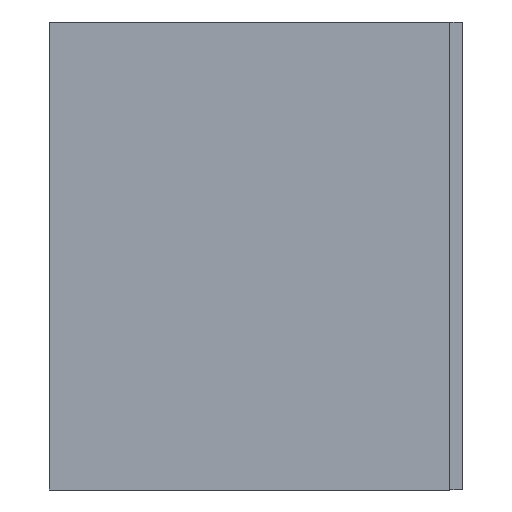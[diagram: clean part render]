
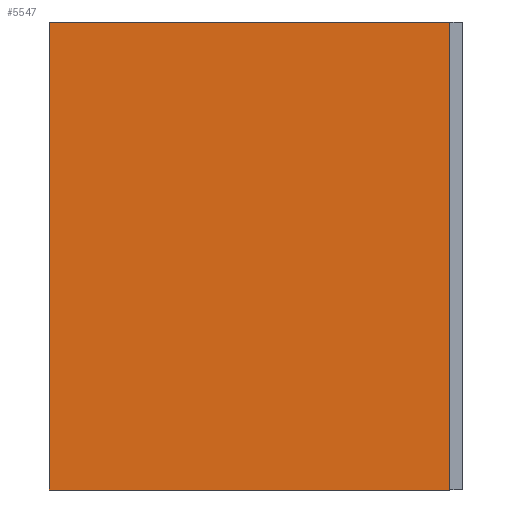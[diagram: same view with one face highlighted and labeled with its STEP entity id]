
A CAD part, left-side view. The second image highlights one B-rep face of the part: STEP entity #5547.
In plain terms, the highlighted planar face has unit normal (-1, 0, 0).
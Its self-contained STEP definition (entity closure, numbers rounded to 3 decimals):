
#82 = EDGE_CURVE ( 'NONE', #9970, #8568, #7571, .T. ) ;
#111 = EDGE_CURVE ( 'NONE', #8568, #8581, #11132, .T. ) ;
#594 = CARTESIAN_POINT ( 'NONE',  ( 0., -19.25, 22.5 ) ) ;
#1214 = ORIENTED_EDGE ( 'NONE', *, *, #82, .F. ) ;
#1256 = ORIENTED_EDGE ( 'NONE', *, *, #12173, .F. ) ;
#1344 = ORIENTED_EDGE ( 'NONE', *, *, #11419, .F. ) ;
#1592 = ORIENTED_EDGE ( 'NONE', *, *, #111, .F. ) ;
#2105 = CARTESIAN_POINT ( 'NONE',  ( 0., 19.25, 22.5 ) ) ;
#2241 = LINE ( 'NONE', #8287, #5587 ) ;
#3659 = VECTOR ( 'NONE', #14247, 1000. ) ;
#4020 = AXIS2_PLACEMENT_3D ( 'NONE', #14371, #14359, #14338 ) ;
#4821 = VECTOR ( 'NONE', #5057, 1000. ) ;
#4992 = CARTESIAN_POINT ( 'NONE',  ( 0., -19.25, -22.5 ) ) ;
#5057 = DIRECTION ( 'NONE',  ( 0., 0., 1. ) ) ;
#5547 = ADVANCED_FACE ( 'NONE', ( #9225 ), #14493, .T. ) ;
#5587 = VECTOR ( 'NONE', #8545, 1000. ) ;
#5832 = EDGE_LOOP ( 'NONE', ( #1214, #1256, #1344, #1592 ) ) ;
#6920 = CARTESIAN_POINT ( 'NONE',  ( 0., 19.25, -22.5 ) ) ;
#7571 = LINE ( 'NONE', #4992, #7696 ) ;
#7696 = VECTOR ( 'NONE', #14099, 1000. ) ;
#8287 = CARTESIAN_POINT ( 'NONE',  ( 0., -19.25, 22.5 ) ) ;
#8455 = CARTESIAN_POINT ( 'NONE',  ( 0., 19.25, 22.5 ) ) ;
#8517 = VERTEX_POINT ( 'NONE', #9769 ) ;
#8545 = DIRECTION ( 'NONE',  ( 0., -1., 0. ) ) ;
#8568 = VERTEX_POINT ( 'NONE', #6920 ) ;
#8581 = VERTEX_POINT ( 'NONE', #8455 ) ;
#9225 = FACE_OUTER_BOUND ( 'NONE', #5832, .T. ) ;
#9769 = CARTESIAN_POINT ( 'NONE',  ( 0., -19.25, 22.5 ) ) ;
#9970 = VERTEX_POINT ( 'NONE', #12195 ) ;
#11132 = LINE ( 'NONE', #2105, #4821 ) ;
#11419 = EDGE_CURVE ( 'NONE', #8581, #8517, #2241, .T. ) ;
#12173 = EDGE_CURVE ( 'NONE', #8517, #9970, #13230, .T. ) ;
#12195 = CARTESIAN_POINT ( 'NONE',  ( 0., -19.25, -22.5 ) ) ;
#13230 = LINE ( 'NONE', #594, #3659 ) ;
#14099 = DIRECTION ( 'NONE',  ( 0., 1., 0. ) ) ;
#14247 = DIRECTION ( 'NONE',  ( 0., 0., -1. ) ) ;
#14338 = DIRECTION ( 'NONE',  ( 0., 0., 1. ) ) ;
#14359 = DIRECTION ( 'NONE',  ( -1., 0., 0. ) ) ;
#14371 = CARTESIAN_POINT ( 'NONE',  ( 0., 19.25, -22.5 ) ) ;
#14493 = PLANE ( 'NONE',  #4020 ) ;
